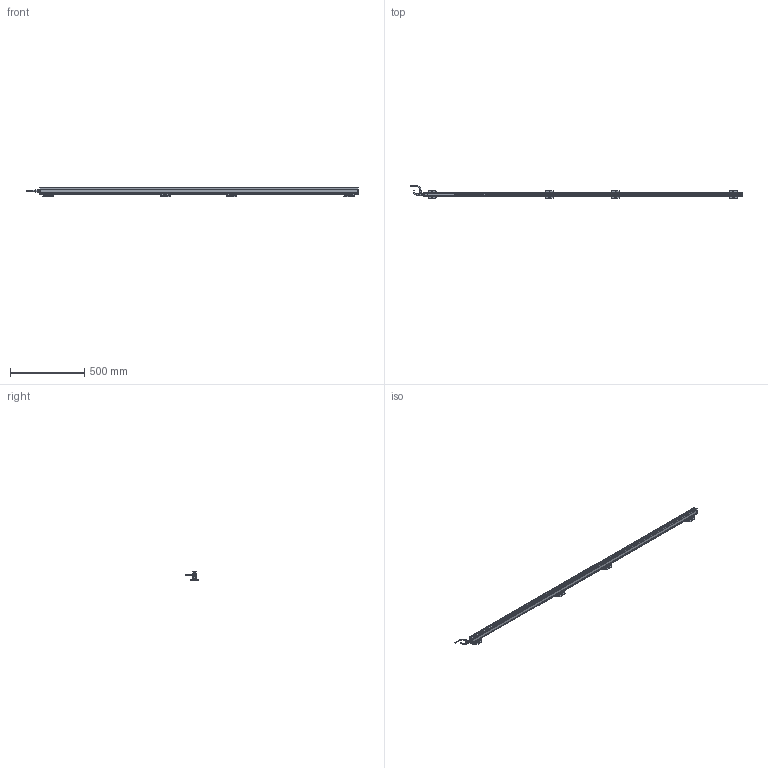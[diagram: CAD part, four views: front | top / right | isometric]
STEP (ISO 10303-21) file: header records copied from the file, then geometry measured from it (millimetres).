
FILE_DESCRIPTION(('Bauteilbeschreibung','HiCAD-Model','HiCAD-STEP-TRANSLATION','Bauteilbeschreibung'),'2;1');
FILE_NAME('PERFORMAXIQEASY_2070-2160_3D.STP','2014-03-05T11:53:43+00:00',('Konstrukteur'),('Konstrukteur Firma GmbH'),' HiCAD 2011, Step 1600.0 ','HiCAD 2011','confidential');
FILE_SCHEMA(('AUTOMOTIVE_DESIGN { 1 2 10303 214 0 1 1 1 }'));
Products named in the file (46): PERFORMAXIQEASY_2070_2160_3D; A_PERFORMAX IQ EASY 2070_2160; A_PERFORMAX IQ EASY SPEED; A_CAP DE; A_CAP CE_5; LED_2C_3MM; LED02C03MM; A519020315_CONNECTOR APPLIANCE; A_INSERT; A_CONTACTS; A_HOUSING; A_PROFILE; A_POTTING; PIN; PIN0; A532000100_BRACKET BARS_ MOUNT; A_SIDE PIECE; A0SIDE0PIECE; A_BRACKET SMALL; A_SLIDE PIECE; A5320001000BRACKET0BARS00MOUNT; A0SIDE0PIECE0; A0SIDE0PIECE1; A0BRACKET0SMALL; A0SLIDE0PIECE; A5320001000BRACKET0BARS00MOUNT0; A0SIDE0PIECE2; A0SIDE0PIECE3; A0BRACKET0SMALL0; A0SLIDE0PIECE0; A0SIDE0PIECE4; A0SIDE0PIECE5; A0BRACKET0SMALL1; A0SLIDE0PIECE1; A_CONNECTOR STRAIGHT; EXTRUDED SOLID_0; DRAAD GEBOGEN; REVOLVED SOLID_1; REVOLVED SOLID_3; A_CONNECTOR ANGLED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
Assembly tree (45 placements, depth 5):
  PERFORMAXIQEASY_2070_2160_3D
    A_PERFORMAX IQ EASY 2070_2160
      A_PERFORMAX IQ EASY SPEED
        A_CAP DE
        A_CAP CE_5
        LED_2C_3MM
        LED02C03MM
        A519020315_CONNECTOR APPLIANCE
          A_INSERT
          A_CONTACTS
          A_HOUSING
        A_PROFILE
        A_POTTING
        PIN
        PIN0
      A532000100_BRACKET BARS_ MOUNT
        A_SIDE PIECE
        A0SIDE0PIECE
        A_BRACKET SMALL
        A_SLIDE PIECE
      A5320001000BRACKET0BARS00MOUNT
        A0SIDE0PIECE0
        A0SIDE0PIECE1
        A0BRACKET0SMALL
        A0SLIDE0PIECE
      A5320001000BRACKET0BARS00MOUNT0
        A0SIDE0PIECE2
        A0SIDE0PIECE3
        A0BRACKET0SMALL0
        A0SLIDE0PIECE0
      A5320001000BRACKET0BARS00MOUNT0
        A0SIDE0PIECE4
        A0SIDE0PIECE5
        A0BRACKET0SMALL1
        A0SLIDE0PIECE1
      A_CONNECTOR STRAIGHT
        EXTRUDED SOLID_0
        DRAAD GEBOGEN
        REVOLVED SOLID_1
        REVOLVED SOLID_3
      A_CONNECTOR ANGLED
        REVOLVED0SOLID01
        EXTRUDED0SOLID00
        C_EDGE SWEEP_0
        REVOLVED SOLID_2
        REVOLVED0SOLID03
Bounding box: 2237.89 x 84.24 x 63.13 mm (x, y, z)
Volume: 2244082.8 mm3; surface area: 560922.9 mm2
Topology: 41 solids, 41 shells, 3447 faces, 8839 edges, 5258 vertices
Faces by surface type: cylinder 1457, plane 1315, sphere 222, torus 205, bspline 168, cone 80
Full cylindrical faces by diameter (mm): 0.8 x10, 1 x5, 2.387 x8, 3 x19, 3.1 x1, 4.2 x2, 5 x4, 5.5 x20, 8 x2, 8.2 x1, 8.4 x2, 8.945 x1, 9 x2, 10.2 x1, 10.5 x3, 11 x1, 12 x3, 12.8 x1, 13.8 x4, 14.5 x3
Entity records: 159221 total; most frequent: CARTESIAN_POINT 37152, DIRECTION 17145, ORIENTED_EDGE 16748, EDGE_CURVE 8374, COLOUR_RGB 7959, PRESENTATION_STYLE_ASSIGNMENT 7959, OVER_RIDING_STYLED_ITEM 7923, CURVE_STYLE 7918
